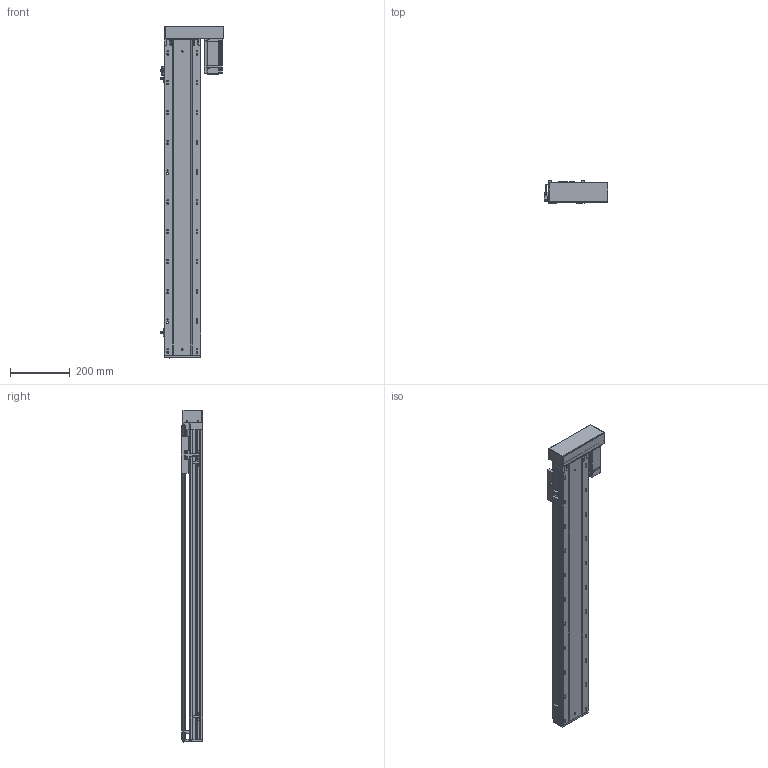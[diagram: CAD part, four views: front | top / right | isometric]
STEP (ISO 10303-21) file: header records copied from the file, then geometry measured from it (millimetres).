
FILE_DESCRIPTION (( 'STEP AP203' ), '1' );
FILE_NAME ('RY120-L2020-300-RK.SLDASM_850.step', '2021-03-12T07:14:54', ( '盈信电脑' ), ( '东莞市道滘镇水果街19号' ), 'SwSTEP 2.0', 'SolidWorks 2012', '' );
FILE_SCHEMA (( 'CONFIG_CONTROL_DESIGN' ));
Products named in the file (15): RY120-L2020-300-RK.SLDASM_850; RY120蛌殏萇儂欶; 侂狟400W侜督萇儂; 15; RY120-400W萇儂傷-酘衵殏_450; RY120酘殏萇儂假蚾啣; RY120转拆电端丝杆支撑座(20丝杆，7002轴承); RY120外置感应片(140共用）; 滅袉蝶18-24; 覜茼ん672; 滅袉蝶18-10; RY120綴裔啣; RY120-300-RK蛌殏倰第奻裔啣_850; RY120-300-RK蛌殏倰第菁釱_850; RY120臏賑輸(20蹟譫)
Assembly tree (17 placements, depth 4):
  RY120-L2020-300-RK.SLDASM_850
    RY120-300-RK蛌殏倰第菁釱_850
    RY120-300-RK蛌殏倰第奻裔啣_850
    RY120臏賑輸(20蹟譫)
    RY120綴裔啣
    覜茼ん672  x3
    滅袉蝶18-10
    滅袉蝶18-24  x2
    RY120外置感应片(140共用）
    RY120转拆电端丝杆支撑座(20丝杆，7002轴承)
    RY120-400W萇儂傷-酘衵殏_450
      RY120酘殏萇儂假蚾啣
      侂狟400W侜督萇儂
        15
      RY120蛌殏萇儂欶
Bounding box: 214.2 x 73 x 1114 mm (x, y, z)
Volume: 3211815.3 mm3; surface area: 1188271.6 mm2
Topology: 16 solids, 16 shells, 2620 faces, 7251 edges, 4644 vertices
Faces by surface type: plane 1256, cylinder 1024, cone 235, bspline 105
Entity records: 88159 total; most frequent: CARTESIAN_POINT 25487, ORIENTED_EDGE 13174, DIRECTION 12019, EDGE_CURVE 6587, VERTEX_POINT 4312, AXIS2_PLACEMENT_3D 4029, LINE 3961, VECTOR 3961
